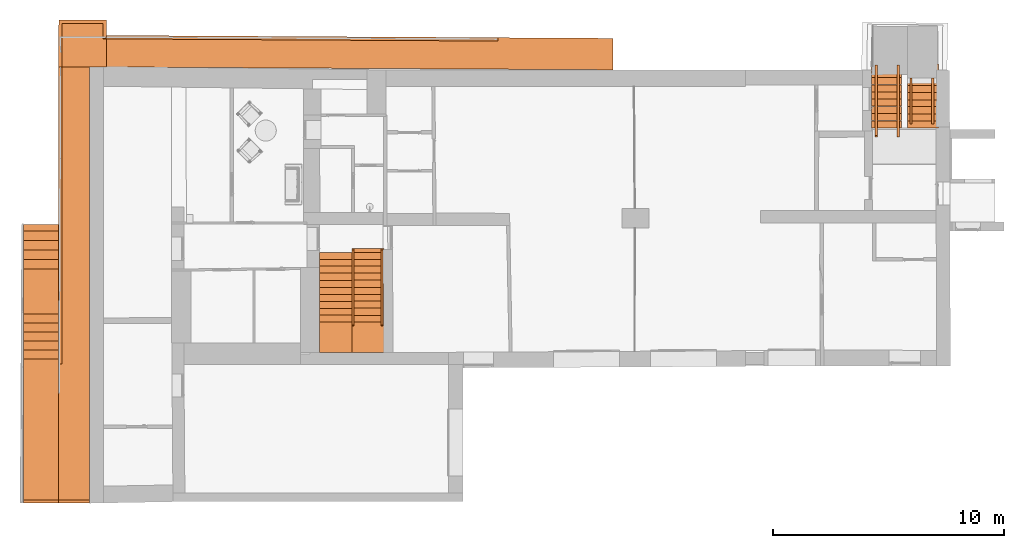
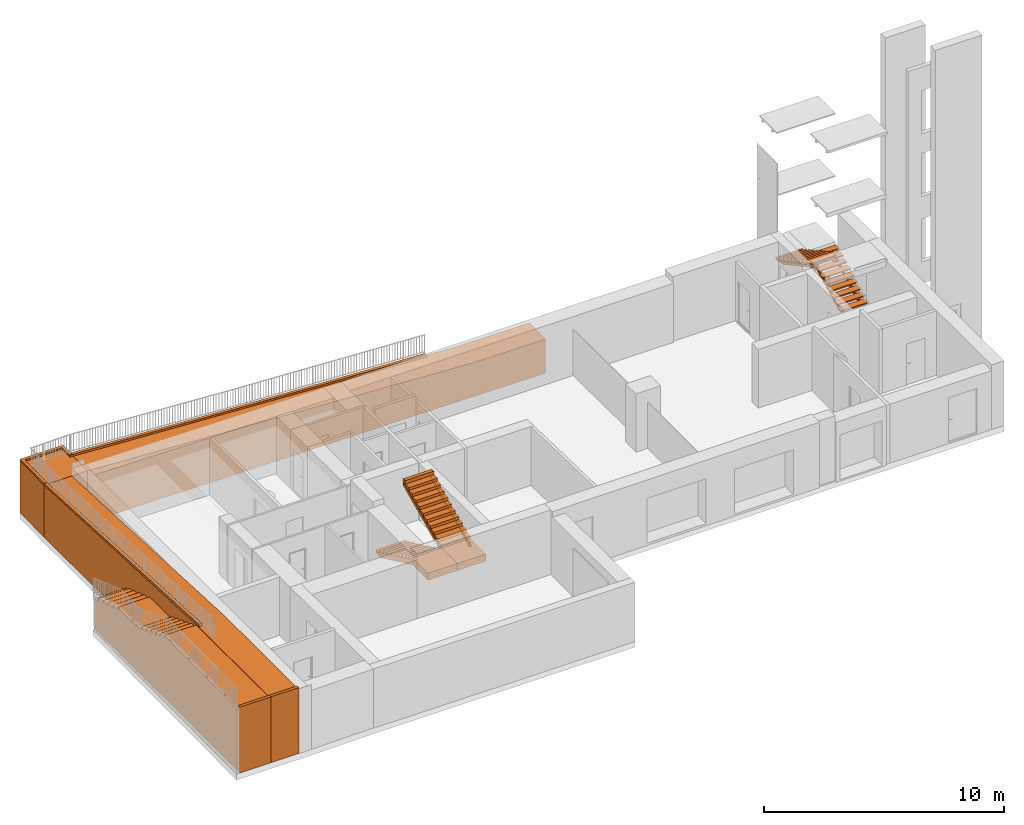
# One storey, part 16 of 17: 17 proxies.
"""IFC2X3 building model written with IfcOpenShell, lengths in millimetres."""

from ifc_helpers import new_model, entity, si_unit, converted_unit, derived_unit, direction, frame, frame_2d, origin, place, context, subcontext, project, spatial, polyline, rectangle, outline, extrude, source, transform, mapped, type_object, type_shapes, element, save


model = new_model("IFC2X3")

# Units and contexts
model_context = context("Model", 3, precision=0.01, world=origin(), true_north=direction((6.12303176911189e-17, 1.0)))
context_of_model = context(None, 3, precision=0.01, world=origin(), true_north=direction((6.12303176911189e-17, 1.0)))
body_context = subcontext(model_context, "Body", "Model", "MODEL_VIEW")
ifc_project = project(units=[si_unit("LENGTHUNIT", "METRE", prefix="MILLI"), si_unit("AREAUNIT", "SQUARE_METRE"), si_unit("VOLUMEUNIT", "CUBIC_METRE"), converted_unit("PLANEANGLEUNIT", "DEGREE", entity("IfcRatioMeasure", 0.0174532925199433), si_unit("PLANEANGLEUNIT", "RADIAN"), dimensions=[0, 0, 0, 0, 0, 0, 0]), si_unit("MASSUNIT", "GRAM", prefix="KILO"), derived_unit("MASSDENSITYUNIT", [(si_unit("MASSUNIT", "GRAM", prefix="KILO"), 1), (si_unit("LENGTHUNIT", "METRE"), -3)]), si_unit("TIMEUNIT", "SECOND"), si_unit("FREQUENCYUNIT", "HERTZ"), si_unit("THERMODYNAMICTEMPERATUREUNIT", "DEGREE_CELSIUS"), derived_unit("THERMALTRANSMITTANCEUNIT", [(si_unit("MASSUNIT", "GRAM", prefix="KILO"), 1), (si_unit("THERMODYNAMICTEMPERATUREUNIT", "KELVIN"), -1), (si_unit("TIMEUNIT", "SECOND"), -3)]), derived_unit("VOLUMETRICFLOWRATEUNIT", [(si_unit("LENGTHUNIT", "METRE"), 3), (si_unit("TIMEUNIT", "SECOND"), -1)]), si_unit("ELECTRICCURRENTUNIT", "AMPERE"), si_unit("ELECTRICVOLTAGEUNIT", "VOLT"), si_unit("POWERUNIT", "WATT"), si_unit("FORCEUNIT", "NEWTON", prefix="KILO"), si_unit("ILLUMINANCEUNIT", "LUX"), si_unit("LUMINOUSFLUXUNIT", "LUMEN"), si_unit("LUMINOUSINTENSITYUNIT", "CANDELA"), derived_unit("USERDEFINED", [(si_unit("MASSUNIT", "GRAM", prefix="KILO"), -1), (si_unit("LENGTHUNIT", "METRE"), -2), (si_unit("TIMEUNIT", "SECOND"), 3), (si_unit("LUMINOUSFLUXUNIT", "LUMEN"), 1)]), derived_unit("LINEARVELOCITYUNIT", [(si_unit("LENGTHUNIT", "METRE"), 1), (si_unit("TIMEUNIT", "SECOND"), -1)]), si_unit("PRESSUREUNIT", "PASCAL"), derived_unit("USERDEFINED", [(si_unit("LENGTHUNIT", "METRE"), -2), (si_unit("MASSUNIT", "GRAM", prefix="KILO"), 1), (si_unit("TIMEUNIT", "SECOND"), -2)])], contexts=[model_context, context_of_model])

# Site, building, storey
site_placement = place(None, frame((121442.264707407, 135347.995453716, -1800.0)))
site = spatial("IfcSite", under=ifc_project, at=site_placement, Name="Surface", CompositionType="ELEMENT")
building_placement = place(site_placement, origin())
building = spatial("IfcBuilding", under=site, at=building_placement, CompositionType="ELEMENT")
storey_placement = place(building_placement, frame((0.0, 0.0, -1490.0)))
storey = spatial("IfcBuildingStorey", under=building, at=storey_placement, Name="Kelder", CompositionType="ELEMENT", Elevation=-1489.99999999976)

# Proxies
building_element_proxy_type_1 = type_object("IfcBuildingElementProxyType", Name="Stairs1", PredefinedType="NOTDEFINED")
shared_shape_1 = source(origin(), body_context, "Body", "SweptSolid", [
    extrude(rectangle(XDim=1341.30549021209, YDim=302.582400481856, at=frame_2d((8.64019966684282e-12, 0.0), x_axis=(1.0, 0.0))), frame((-83138.6154851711, -114745.990638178, -106.646303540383), z_axis=(0.0, 0.0, 1.0), x_axis=(-1.0, 0.0, 0.0)), (0.0, 0.0, 1.0), 65.0000000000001),
    extrude(rectangle(XDim=1341.30549021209, YDim=317.499999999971, at=frame_2d((8.64019966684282e-12, 8.66862137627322e-12), x_axis=(1.0, 0.0))), frame((-83138.6154851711, -117193.435695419, -1354.2627271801), z_axis=(0.0, 0.0, 1.0), x_axis=(-1.0, 0.0, 0.0)), (0.0, 0.0, 1.0), 65.0000000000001),
    extrude(rectangle(XDim=1341.30549021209, YDim=317.499999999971, at=frame_2d((8.64019966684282e-12, 8.66862137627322e-12), x_axis=(1.0, 0.0))), frame((-83138.6154851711, -116275.939012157, -885.138951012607), z_axis=(0.0, 0.0, 1.0), x_axis=(-1.0, 0.0, 0.0)), (0.0, 0.0, 1.0), 65.0),
    extrude(rectangle(XDim=1341.30549021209, YDim=317.499999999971, at=frame_2d((8.64019966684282e-12, 8.66862137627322e-12), x_axis=(1.0, 0.0))), frame((-83138.6154851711, -116585.836263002, -1041.76567342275), z_axis=(0.0, 0.0, 1.0), x_axis=(-1.0, 0.0, 0.0)), (0.0, 0.0, 1.0), 65.0),
    extrude(rectangle(XDim=1341.30549021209, YDim=317.499999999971, at=frame_2d((8.64019966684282e-12, -8.66862137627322e-12), x_axis=(1.0, 0.0))), frame((-83138.6154851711, -116893.233513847, -1197.14239583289), z_axis=(0.0, 0.0, 1.0), x_axis=(-1.0, 0.0, 0.0)), (0.0, 0.0, 1.0), 65.0),
    extrude(rectangle(XDim=1341.30549021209, YDim=317.499999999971, at=frame_2d((8.64019966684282e-12, -8.66862137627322e-12), x_axis=(1.0, 0.0))), frame((-83138.6154851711, -115979.711789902, -729.565695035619), z_axis=(0.0, 0.0, 1.0), x_axis=(-1.0, 0.0, 0.0)), (0.0, 0.0, 1.0), 65.0000000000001),
    extrude(rectangle(XDim=1341.30549021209, YDim=317.499999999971, at=frame_2d((8.64019966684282e-12, -8.66862137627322e-12), x_axis=(1.0, 0.0))), frame((-83138.6154851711, -115674.12181416, -575.519505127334), z_axis=(0.0, 0.0, 1.0), x_axis=(-1.0, 0.0, 0.0)), (0.0, 0.0, 1.0), 65.0000000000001),
    extrude(rectangle(XDim=1341.30549021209, YDim=317.499999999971, at=frame_2d((8.64019966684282e-12, -8.66862137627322e-12), x_axis=(1.0, 0.0))), frame((-83138.6154851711, -115356.62181416, -422.466823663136), z_axis=(0.0, 0.0, 1.0), x_axis=(-1.0, 0.0, 0.0)), (0.0, 0.0, 1.0), 65.0000000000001),
    extrude(rectangle(XDim=1341.30549021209, YDim=317.499999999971, at=frame_2d((8.64019966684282e-12, -8.66862137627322e-12), x_axis=(1.0, 0.0))), frame((-83138.6154851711, -115056.031838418, -268.42063375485), z_axis=(0.0, 0.0, 1.0), x_axis=(-1.0, 0.0, 0.0)), (0.0, 0.0, 1.0), 65.0000000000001),
])
type_shapes(building_element_proxy_type_1, [shared_shape_1])
proxy_1_placement = place(storey_placement, frame((0.0, 0.0, 1490.0)))
element("IfcBuildingElementProxy", 1, at=proxy_1_placement, inside=storey, type_object=building_element_proxy_type_1, Name="Stairs1:Stairs1", ObjectType="Stairs1", context=body_context, shape_type="MappedRepresentation", body=[
    mapped(shared_shape_1, transform((0.0, 0.0, 0.0), scale=1.0)),
])
building_element_proxy_type_2 = type_object("IfcBuildingElementProxyType", Name="Generic Models 1", PredefinedType="NOTDEFINED")
shared_shape_2 = source(origin(), body_context, "Body", "SweptSolid", [
    extrude(outline(polyline([(-1034.0401496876, -7753.13671065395), (2317.82089929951, -7753.13671065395), (2317.82089929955, 4323.60881983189), (745.667473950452, 4323.60881983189), (745.667473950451, 4048.60881983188), (605.667473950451, 4048.60881983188), (605.667473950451, 3643.60881983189), (463.167473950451, 3643.60881983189), (463.167473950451, 3228.6088198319), (320.667473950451, 3228.6088198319), (320.66747395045, 2803.60881983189), (168.16747395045, 2803.60881983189), (168.167473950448, 2388.6088198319), (32.2727241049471, 2388.6088198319), (11.7291230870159, 443.608819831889), (-144.332526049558, 443.608819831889), (-144.332526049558, 58.6088198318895), (-296.832526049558, 58.6088198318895), (-296.832526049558, -336.391180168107), (-446.832526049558, -336.391180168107), (-446.832526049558, -731.391180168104), (-596.832526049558, -731.391180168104), (-596.832526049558, -1106.39118016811), (-746.832526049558, -1106.39118016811), (-746.832526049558, -1501.3911801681), (-896.832526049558, -1501.3911801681), (-929.0401496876, -7613.13671065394), (-1034.0401496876, -7613.13671065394), (-1034.0401496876, -7753.13671065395)])), frame((-122141.882471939, -125876.634840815, 827.820899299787), z_axis=(1.0, 0.0, 0.0), x_axis=(0.0, 0.0, -1.0)), (0.0, 0.0, 1.0), 1510.22459635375),
])
type_shapes(building_element_proxy_type_2, [shared_shape_2])
proxy_2_placement = place(storey_placement, frame((0.0, 0.0, 1490.0)))
element("IfcBuildingElementProxy", 2, at=proxy_2_placement, inside=storey, type_object=building_element_proxy_type_2, Name="Generic Models 1:Generic Models 1", ObjectType="Generic Models 1", context=body_context, shape_type="MappedRepresentation", body=[
    mapped(shared_shape_2, transform((0.0, 0.0, 0.0), scale=1.0)),
])
building_element_proxy_type_3 = type_object("IfcBuildingElementProxyType", Name="Stairs2", PredefinedType="NOTDEFINED")
shared_shape_3 = source(origin(), body_context, "Body", "SweptSolid", [
    extrude(outline(polyline([(-10396.7876731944, -1086.76905641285), (2329.34991411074, -1086.76905641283), (8242.64817880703, -805.160049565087), (8247.40508770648, -905.046844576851), (8387.24660072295, -898.387172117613), (8227.79367151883, 2449.84639511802), (-3831.56069815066, 1875.54375465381), (-10665.9907023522, 1550.06769041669), (-10540.1043791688, -1093.32566110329), (-10396.7876731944, -1086.76905641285)])), frame((-120631.657875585, -125291.031293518, 565.684397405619), z_axis=(1.0, 0.0, 0.0), x_axis=(0.0, -0.998867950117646, 0.0475690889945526)), (0.0, 0.0, 1.0), 1341.92659735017),
])
type_shapes(building_element_proxy_type_3, [shared_shape_3])
proxy_3_placement = place(storey_placement, frame((0.0, 0.0, 1490.0)))
element("IfcBuildingElementProxy", 3, at=proxy_3_placement, inside=storey, type_object=building_element_proxy_type_3, Name="Stairs2:Stairs2", ObjectType="Stairs2", context=body_context, shape_type="MappedRepresentation", body=[
    mapped(shared_shape_3, transform((0.0, 0.0, 0.0), scale=1.0)),
])
building_element_proxy_type_4 = type_object("IfcBuildingElementProxyType", Name="Stairs3", PredefinedType="NOTDEFINED")
shared_shape_4 = source(origin(), body_context, "Body", "SweptSolid", [
    extrude(outline(polyline([(-11475.7199854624, -1452.48540296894), (10492.3713667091, -1452.48540296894), (10492.3713667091, 1192.94884037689), (9880.77816371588, 1155.34140424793), (-7914.08092620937, 278.340280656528), (-11475.7199854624, 278.340280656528), (-11475.7199854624, -1452.48540296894)])), frame((-108053.514757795, -114774.429424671, -37.5145970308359), z_axis=(0.00564505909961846, 0.999984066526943, 0.0), x_axis=(-0.999984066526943, 0.00564505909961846, 0.0)), (0.0, 0.0, 1.0), 1366.45727225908),
])
type_shapes(building_element_proxy_type_4, [shared_shape_4])
proxy_4_placement = place(storey_placement, frame((0.0, 0.0, 1490.0)))
element("IfcBuildingElementProxy", 4, at=proxy_4_placement, inside=storey, type_object=building_element_proxy_type_4, Name="Stairs3:Stairs3", ObjectType="Stairs3", context=body_context, shape_type="MappedRepresentation", body=[
    mapped(shared_shape_4, transform((0.0, 0.0, 0.0), scale=1.0)),
])
building_element_proxy_type_5 = type_object("IfcBuildingElementProxyType", Name="Stairs4", PredefinedType="NOTDEFINED")
shared_shape_5 = source(origin(), body_context, "Body", "SweptSolid", [
    extrude(outline(polyline([(-807.794625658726, -981.611503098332), (1225.54529658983, -981.611503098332), (1213.81409970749, 1096.49073757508), (-819.570012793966, 1104.31874221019), (-811.994757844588, -237.586473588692), (-807.794625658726, -981.611503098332)])), frame((-119522.730207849, -113897.527322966, -1490.0), z_axis=(0.0, 0.0, 1.0), x_axis=(0.00564505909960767, 0.999984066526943, 0.0)), (0.0, 0.0, 1.0), 2646.38829710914),
])
type_shapes(building_element_proxy_type_5, [shared_shape_5])
proxy_5_placement = place(storey_placement, frame((0.0, 0.0, 1490.0)))
element("IfcBuildingElementProxy", 5, at=proxy_5_placement, inside=storey, type_object=building_element_proxy_type_5, Name="Stairs4:Stairs4", ObjectType="Stairs4", context=body_context, shape_type="MappedRepresentation", body=[
    mapped(shared_shape_5, transform((0.0, 0.0, 0.0), scale=1.0)),
])
building_element_proxy_type_6 = type_object("IfcBuildingElementProxyType", Name="Generic Models 2", PredefinedType="NOTDEFINED")
shared_shape_6 = source(origin(), body_context, "Body", "SweptSolid", [
    extrude(outline(polyline([(-3614.6558155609, 33.7995228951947), (-6152.67492386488, 31.3916646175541), (-6576.42154091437, 8.52833769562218), (-6571.84350789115, -76.3204689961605), (-6149.93172449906, -68.6057778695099), (-3614.56094404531, -66.2004321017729), (-291.707432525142, -66.2004771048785), (6068.7230327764, -31.2214470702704), (10566.2632961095, 16.152577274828), (10560.8705431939, 116.101321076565), (6067.9214213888, 68.775656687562), (-291.982404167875, 33.7995228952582), (-3614.6558155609, 33.7995228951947)])), frame((-112118.778874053, -113532.469530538, 878.555670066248), z_axis=(-0.00562724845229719, -0.999984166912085, 0.0), x_axis=(0.998531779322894, -0.00561907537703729, -0.0538768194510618)), (0.0, 0.0, -1.0), 150.953759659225),
])
type_shapes(building_element_proxy_type_6, [shared_shape_6])
proxy_6_placement = place(storey_placement, frame((0.0, 0.0, 1490.0)))
element("IfcBuildingElementProxy", 6, at=proxy_6_placement, inside=storey, type_object=building_element_proxy_type_6, Name="Generic Models 2:Generic Models 2", ObjectType="Generic Models 2", context=body_context, shape_type="MappedRepresentation", body=[
    mapped(shared_shape_6, transform((0.0, 0.0, 0.0), scale=1.0)),
])
building_element_proxy_type_7 = type_object("IfcBuildingElementProxyType", Name="Stairs6", PredefinedType="NOTDEFINED")
shared_shape_7 = source(origin(), body_context, "Body", "SweptSolid", [
    extrude(outline(polyline([(-7302.54301539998, -44.2976090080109), (5429.25290694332, -44.2976090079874), (5567.49915839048, -37.7139076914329), (5563.43254656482, 47.6778520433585), (5418.1298073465, 40.4454079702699), (-7340.97769270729, 84.019349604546), (-7334.793711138, -45.8334839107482), (-7302.54301539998, -44.2976090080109)])), frame((-120631.641126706, -120270.252787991, 1458.90037371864), z_axis=(1.0, 0.0, 0.0), x_axis=(0.0, 0.998867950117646, -0.0475690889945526)), (0.0, 0.0, 1.0), 149.856791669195),
])
type_shapes(building_element_proxy_type_7, [shared_shape_7])
proxy_7_placement = place(storey_placement, frame((0.0, 0.0, 1490.0)))
element("IfcBuildingElementProxy", 7, at=proxy_7_placement, inside=storey, type_object=building_element_proxy_type_7, Name="Stairs6:Stairs6", ObjectType="Stairs6", context=body_context, shape_type="MappedRepresentation", body=[
    mapped(shared_shape_7, transform((0.0, 0.0, 0.0), scale=1.0)),
])
building_element_proxy_type_8 = type_object("IfcBuildingElementProxyType", Name="Stairs7", PredefinedType="NOTDEFINED")
shared_shape_8 = source(origin(), body_context, "Body", "SweptSolid", [
    extrude(outline(polyline([(-33.2151893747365, -1041.07989938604), (746.784810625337, -1041.07989938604), (735.053613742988, 1037.02234128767), (-1298.33049875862, 1044.85034592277), (-1298.90795581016, 894.851457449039), (585.894760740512, 887.595452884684), (595.935648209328, -891.079899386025), (-33.2151893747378, -891.079899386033), (-33.2151893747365, -1041.07989938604)])), frame((-119579.495025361, -113418.438762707, 1156.38829710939), z_axis=(0.0, 0.0, 1.0), x_axis=(0.00564505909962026, 0.999984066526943, 0.0)), (0.0, 0.0, 1.0), 84.9999999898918),
])
type_shapes(building_element_proxy_type_8, [shared_shape_8])
proxy_8_placement = place(storey_placement, frame((0.0, 0.0, 1490.0)))
element("IfcBuildingElementProxy", 8, at=proxy_8_placement, inside=storey, type_object=building_element_proxy_type_8, Name="Stairs7:Stairs7", ObjectType="Stairs7", context=body_context, shape_type="MappedRepresentation", body=[
    mapped(shared_shape_8, transform((0.0, 0.0, 0.0), scale=1.0)),
])
building_element_proxy_type_9 = type_object("IfcBuildingElementProxyType", Name="Stairs10", PredefinedType="NOTDEFINED")
shared_shape_9 = source(origin(), body_context, "Body", "SweptSolid", [
    extrude(outline(polyline([(-1075.28816199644, -468.901185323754), (-759.368749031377, -468.901185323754), (917.328455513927, 388.158575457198), (917.328455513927, 549.64379519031), (-1075.28816199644, -468.901185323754)])), frame((-83701.5954123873, -116114.610293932, -979.387765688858), z_axis=(1.0, 0.0, 0.0), x_axis=(0.0, 1.0, 0.0)), (0.0, 0.0, 1.0), 89.9999999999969),
])
type_shapes(building_element_proxy_type_9, [shared_shape_9])
proxy_9_placement = place(storey_placement, frame((0.0, 0.0, 1490.0)))
element("IfcBuildingElementProxy", 9, at=proxy_9_placement, inside=storey, type_object=building_element_proxy_type_9, Name="Stairs10:Stairs10", ObjectType="Stairs10", context=body_context, shape_type="MappedRepresentation", body=[
    mapped(shared_shape_9, transform((0.0, 0.0, 0.0), scale=1.0)),
])
building_element_proxy_type_10 = type_object("IfcBuildingElementProxyType", Name="Stairs10", PredefinedType="NOTDEFINED")
shared_shape_10 = source(origin(), body_context, "Body", "SweptSolid", [
    extrude(outline(polyline([(-1075.28816199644, -468.901185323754), (-759.368749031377, -468.901185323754), (917.328455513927, 388.158575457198), (917.328455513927, 549.64379519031), (-1075.28816199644, -468.901185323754)])), frame((-82751.0855861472, -116114.610293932, -979.387765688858), z_axis=(1.0, 0.0, 0.0), x_axis=(0.0, 1.0, 0.0)), (0.0, 0.0, 1.0), 89.9999999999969),
])
type_shapes(building_element_proxy_type_10, [shared_shape_10])
proxy_10_placement = place(storey_placement, frame((0.0, 0.0, 1490.0)))
element("IfcBuildingElementProxy", 10, at=proxy_10_placement, inside=storey, type_object=building_element_proxy_type_10, Name="Stairs5:Stairs10", ObjectType="Stairs10", context=body_context, shape_type="MappedRepresentation", body=[
    mapped(shared_shape_10, transform((0.0, 0.0, 0.0), scale=1.0)),
])

# Space
space_1_placement = place(storey_placement, origin())
space_1 = spatial("IfcSpace", under=storey, at=space_1_placement, Name="001", CompositionType="ELEMENT", InteriorOrExteriorSpace="INTERNAL")

# Proxies
building_element_proxy_type_11 = type_object("IfcBuildingElementProxyType", Name="Generic Models 3", PredefinedType="NOTDEFINED")
shared_shape_11 = source(origin(), body_context, "Body", "SweptSolid", [
    extrude(rectangle(XDim=1284.51954642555, YDim=304.700219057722, at=frame_2d((0.0, -8.66862137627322e-12), x_axis=(1.0, 0.0))), frame((-84711.6738323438, -117204.959251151, 1600.71104898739), z_axis=(0.0, 0.0, 1.0), x_axis=(-1.0, 0.0, 0.0)), (0.0, 0.0, 1.0), 59.999999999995),
    extrude(rectangle(XDim=1284.51954642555, YDim=304.700219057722, at=frame_2d((0.0, -8.66862137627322e-12), x_axis=(1.0, 0.0))), frame((-84711.6738323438, -114696.894009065, 233.236954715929), z_axis=(0.0, 0.0, 1.0), x_axis=(-1.0, 0.0, 0.0)), (0.0, 0.0, 1.0), 59.999999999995),
    extrude(rectangle(XDim=1284.51954642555, YDim=304.700219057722, at=frame_2d((0.0, -8.66862137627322e-12), x_axis=(1.0, 0.0))), frame((-84711.6738323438, -115008.927437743, 403.211048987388), z_axis=(0.0, 0.0, 1.0), x_axis=(-1.0, 0.0, 0.0)), (0.0, 0.0, 1.0), 59.999999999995),
    extrude(rectangle(XDim=1284.51954642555, YDim=304.700219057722, at=frame_2d((0.0, -8.66862137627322e-12), x_axis=(1.0, 0.0))), frame((-84711.6738323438, -115327.905568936, 573.211048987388), z_axis=(0.0, 0.0, 1.0), x_axis=(-1.0, 0.0, 0.0)), (0.0, 0.0, 1.0), 59.9999999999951),
    extrude(rectangle(XDim=1284.51954642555, YDim=304.700219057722, at=frame_2d((0.0, -8.66862137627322e-12), x_axis=(1.0, 0.0))), frame((-84711.6738323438, -115637.905568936, 745.711048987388), z_axis=(0.0, 0.0, 1.0), x_axis=(-1.0, 0.0, 0.0)), (0.0, 0.0, 1.0), 59.999999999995),
    extrude(rectangle(XDim=1284.51954642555, YDim=304.700219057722, at=frame_2d((0.0, 8.66862137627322e-12), x_axis=(1.0, 0.0))), frame((-84711.6738323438, -115951.655568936, 915.711048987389), z_axis=(0.0, 0.0, 1.0), x_axis=(-1.0, 0.0, 0.0)), (0.0, 0.0, 1.0), 59.999999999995),
    extrude(rectangle(XDim=1284.51954642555, YDim=304.700219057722, at=frame_2d((0.0, -8.66862137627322e-12), x_axis=(1.0, 0.0))), frame((-84711.6738323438, -116264.155568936, 1088.21104898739), z_axis=(0.0, 0.0, 1.0), x_axis=(-1.0, 0.0, 0.0)), (0.0, 0.0, 1.0), 59.999999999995),
    extrude(rectangle(XDim=1284.51954642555, YDim=304.700219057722, at=frame_2d((0.0, 8.66862137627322e-12), x_axis=(1.0, 0.0))), frame((-84711.6738323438, -116579.959251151, 1260.71104898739), z_axis=(0.0, 0.0, 1.0), x_axis=(-1.0, 0.0, 0.0)), (0.0, 0.0, 1.0), 59.999999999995),
    extrude(rectangle(XDim=1284.51954642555, YDim=304.700219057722, at=frame_2d((0.0, -8.66862137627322e-12), x_axis=(1.0, 0.0))), frame((-84711.6738323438, -116892.459251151, 1433.21104898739), z_axis=(0.0, 0.0, 1.0), x_axis=(-1.0, 0.0, 0.0)), (0.0, 0.0, 1.0), 59.999999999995),
])
type_shapes(building_element_proxy_type_11, [shared_shape_11])
proxy_11_placement = place(space_1_placement, frame((0.0, -0.683195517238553, 1490.0749535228)))
element("IfcBuildingElementProxy", 11, at=proxy_11_placement, inside=space_1, type_object=building_element_proxy_type_11, Name="Generic Models 3:Generic Models 3", ObjectType="Generic Models 3", context=body_context, shape_type="MappedRepresentation", body=[
    mapped(shared_shape_11, transform((0.0, 0.0, 0.0), scale=1.0)),
])
building_element_proxy_type_12 = type_object("IfcBuildingElementProxyType", Name="Generic Models 4", PredefinedType="NOTDEFINED")
shared_shape_12 = source(origin(), body_context, "Body", "SweptSolid", [
    extrude(outline(polyline([(-1644.59723048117, -73.546091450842), (1549.0697412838, -73.5460914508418), (1819.98711463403, 73.5460914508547), (-1724.45962543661, 73.5460914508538), (-1644.59723048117, -73.546091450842)])), frame((-84258.5670287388, -116271.102913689, 905.773793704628), z_axis=(1.0, 0.0, 0.0), x_axis=(0.0, 0.878822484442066, -0.477148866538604)), (0.0, 0.0, 1.0), 99.6893712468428),
])
type_shapes(building_element_proxy_type_12, [shared_shape_12])
proxy_12_placement = place(space_1_placement, frame((0.0, 0.0, 1490.0)))
element("IfcBuildingElementProxy", 12, at=proxy_12_placement, inside=space_1, type_object=building_element_proxy_type_12, Name="Generic Models 4:Generic Models 4", ObjectType="Generic Models 4", context=body_context, shape_type="MappedRepresentation", body=[
    mapped(shared_shape_12, transform((0.0, 0.0, 0.0), scale=1.0)),
])
building_element_proxy_type_13 = type_object("IfcBuildingElementProxyType", Name="Generic Models 4", PredefinedType="NOTDEFINED")
shared_shape_13 = source(origin(), body_context, "Body", "SweptSolid", [
    extrude(outline(polyline([(-1077.79373558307, -66.0709579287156), (2107.76377380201, -66.0709579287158), (2362.20833097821, 72.7593556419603), (-1124.81973214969, 80.3899236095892), (-1169.86322983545, 55.813241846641), (-1097.495407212, -76.8206052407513), (-1077.79373558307, -66.0709579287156)])), frame((-85203.8565476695, -116745.041101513, 1168.42055966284), z_axis=(1.0, 0.0, 0.0), x_axis=(0.0, 0.877834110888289, -0.478964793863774)), (0.0, 0.0, 1.0), 93.2648618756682),
])
type_shapes(building_element_proxy_type_13, [shared_shape_13])
proxy_13_placement = place(space_1_placement, frame((0.0, 0.0, 1490.0)))
element("IfcBuildingElementProxy", 13, at=proxy_13_placement, inside=space_1, type_object=building_element_proxy_type_13, Name="Generic Models 5:Generic Models 4", ObjectType="Generic Models 4", context=body_context, shape_type="MappedRepresentation", body=[
    mapped(shared_shape_13, transform((0.0, 0.0, 0.0), scale=1.0)),
])

# Space
space_2_placement = place(storey_placement, origin())
space_2 = spatial("IfcSpace", under=storey, at=space_2_placement, Name="013", CompositionType="ELEMENT", InteriorOrExteriorSpace="INTERNAL")

# Proxies
building_element_proxy_type_14 = type_object("IfcBuildingElementProxyType", Name="Stairs22", PredefinedType="NOTDEFINED")
shared_shape_14 = source(origin(), body_context, "Body", "SweptSolid", [
    extrude(outline(polyline([(1217.13232050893, -746.614168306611), (2534.63232050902, -746.614168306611), (2534.63232050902, -389.101843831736), (1388.5124726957, -389.101843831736), (1375.5893002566, -449.900589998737), (-1428.76520414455, 872.871553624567), (-1799.57733147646, 872.871553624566), (-1799.57733147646, 683.690394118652), (-1504.75703750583, 693.98574564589), (-1504.75703750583, 543.98574564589), (-1204.75703750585, 543.985745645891), (-1204.75703750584, 398.985745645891), (-899.757037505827, 398.985745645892), (-899.757037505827, 260.4408047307), (-590.181881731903, 260.440804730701), (-590.181881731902, 122.940804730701), (-290.181881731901, 122.940804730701), (-290.181881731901, -17.0591952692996), (14.6323205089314, -6.41484877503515), (14.6323205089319, -156.414848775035), (317.132320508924, -156.414848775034), (317.132320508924, -306.414848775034), (623.382320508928, -306.414848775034), (623.382320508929, -451.414848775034), (914.632320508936, -451.414848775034), (914.632320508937, -601.414848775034), (1217.13232050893, -601.414848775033), (1217.13232050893, -746.614168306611)])), frame((-109299.148081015, -124559.671316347, -530.128446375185), z_axis=(1.0, 0.0, 0.0), x_axis=(0.0, -1.0, 0.0)), (0.0, 0.0, 1.0), 1395.75520313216),
])
type_shapes(building_element_proxy_type_14, [shared_shape_14])
proxy_14_placement = place(space_2_placement, frame((0.0, 0.0, 1490.0)))
element("IfcBuildingElementProxy", 14, at=proxy_14_placement, inside=space_2, type_object=building_element_proxy_type_14, Name="Stairs22:Stairs22", ObjectType="Stairs22", context=body_context, shape_type="MappedRepresentation", body=[
    mapped(shared_shape_14, transform((0.0, 0.0, 0.0), scale=1.0)),
])
building_element_proxy_type_15 = type_object("IfcBuildingElementProxyType", Name="Stairs24", PredefinedType="NOTDEFINED")
shared_shape_15 = source(origin(), body_context, "Body", "SweptSolid", [
    extrude(outline(polyline([(-918.837681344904, -1699.07130617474), (-918.837681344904, -1866.40677353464), (-583.311769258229, -1866.40677353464), (-718.04475217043, -1794.76797576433), (789.816385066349, 1438.85066820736), (1029.68892119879, 1489.83714972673), (1029.68892119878, 2635.95699754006), (672.175581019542, 2635.95699754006), (672.175581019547, 1325.88300237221), (533.426596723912, 1325.88300237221), (533.426596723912, 1030.8830023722), (393.426596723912, 1030.8830023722), (393.426596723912, 715.883002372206), (253.426596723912, 715.883002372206), (253.426596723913, 415.883002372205), (113.426596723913, 415.883002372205), (118.662318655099, 115.928693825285), (-26.3376813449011, 115.928693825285), (-26.3376813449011, -184.071306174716), (-166.337681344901, -184.071306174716), (-166.3376813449, -494.071306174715), (-316.3376813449, -494.071306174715), (-316.3376813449, -799.071306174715), (-456.3376813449, -799.071306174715), (-456.3376813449, -1104.07130617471), (-601.3376813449, -1104.07130617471), (-601.3376813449, -1399.07130617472), (-741.3376813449, -1399.07130617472), (-741.3376813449, -1699.07130617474), (-918.837681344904, -1699.07130617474)])), frame((-107903.392877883, -124458.346639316, 888.662318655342), z_axis=(-1.0, 0.0, 0.0), x_axis=(0.0, 0.0, -1.0)), (0.0, 0.0, -1.0), 1386.71263105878),
])
type_shapes(building_element_proxy_type_15, [shared_shape_15])
proxy_15_placement = place(space_2_placement, frame((0.0, 0.0, 1490.0)))
element("IfcBuildingElementProxy", 15, at=proxy_15_placement, inside=space_2, type_object=building_element_proxy_type_15, Name="Stairs24:Stairs24", ObjectType="Stairs24", context=body_context, shape_type="MappedRepresentation", body=[
    mapped(shared_shape_15, transform((0.0, 0.0, 0.0), scale=1.0)),
])
building_element_proxy_type_16 = type_object("IfcBuildingElementProxyType", Name="Generic Models 7", PredefinedType="NOTDEFINED")
shared_shape_16 = source(origin(), body_context, "Body", "SweptSolid", [
    extrude(outline(polyline([(-1812.20186145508, -80.5827758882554), (1755.70154864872, -80.5827758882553), (1877.14850292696, 80.5827758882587), (-1820.64819012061, 80.5827758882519), (-1812.20186145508, -80.5827758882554)])), frame((-107903.392877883, -124271.935569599, 767.804672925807), z_axis=(1.0, 0.0, 0.0), x_axis=(0.0, -0.90630778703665, -0.4226182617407)), (0.0, 0.0, 1.0), 89.4985123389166),
])
type_shapes(building_element_proxy_type_16, [shared_shape_16])
proxy_16_placement = place(space_2_placement, frame((0.0, 0.0, 1490.0)))
element("IfcBuildingElementProxy", 16, at=proxy_16_placement, inside=space_2, type_object=building_element_proxy_type_16, Name="Generic Models 7:Generic Models 7", ObjectType="Generic Models 7", context=body_context, shape_type="MappedRepresentation", body=[
    mapped(shared_shape_16, transform((0.0, 0.0, 0.0), scale=1.0)),
])
building_element_proxy_type_17 = type_object("IfcBuildingElementProxyType", Name="Generic Models 7", PredefinedType="NOTDEFINED")
shared_shape_17 = source(origin(), body_context, "Body", "SweptSolid", [
    extrude(outline(polyline([(-1812.20186145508, -80.5827758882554), (1755.70154864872, -80.5827758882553), (1877.14850292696, 80.5827758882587), (-1820.64819012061, 80.5827758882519), (-1812.20186145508, -80.5827758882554)])), frame((-106645.202758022, -124271.935569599, 767.804672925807), z_axis=(1.0, 0.0, 0.0), x_axis=(0.0, -0.90630778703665, -0.4226182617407)), (0.0, 0.0, 1.0), 99.3044034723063),
])
type_shapes(building_element_proxy_type_17, [shared_shape_17])
proxy_17_placement = place(space_2_placement, frame((0.0, 0.0, 1490.0)))
element("IfcBuildingElementProxy", 17, at=proxy_17_placement, inside=space_2, type_object=building_element_proxy_type_17, Name="Generic Models 8:Generic Models 7", ObjectType="Generic Models 7", context=body_context, shape_type="MappedRepresentation", body=[
    mapped(shared_shape_17, transform((0.0, 0.0, 0.0), scale=1.0)),
])

save(model, "model.ifc")
